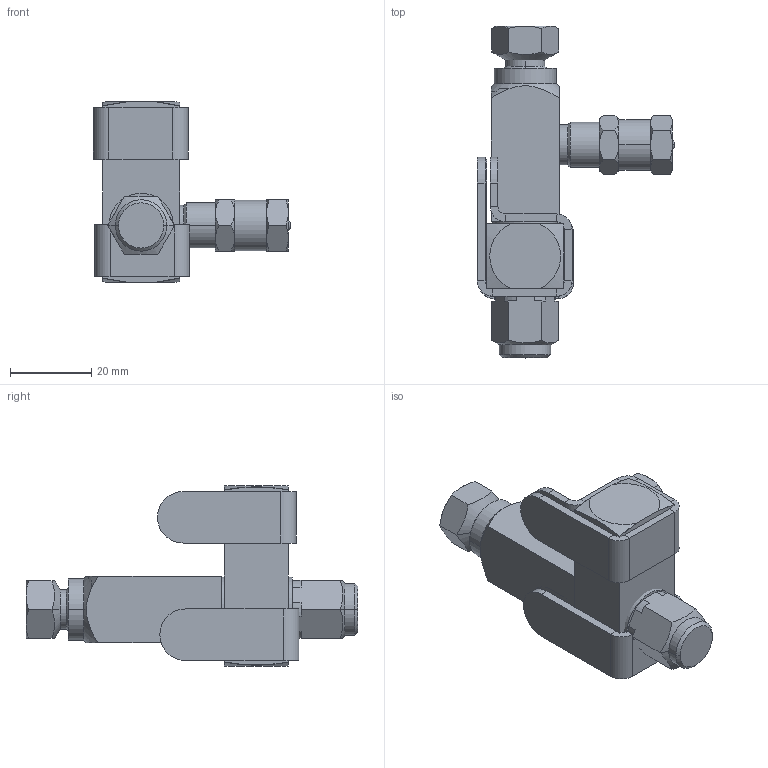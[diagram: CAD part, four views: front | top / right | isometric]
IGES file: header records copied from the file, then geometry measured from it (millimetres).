
Start section:  PTC IGES file: 24f509-en-f.igs
Global section: file name: 24f509-en-f.igs; native system: Creo Parametric by PTC Inc.; preprocessor: 2021072; author: qtmwp1; organization: Unknown; date: 20220214.112504; units: inch
Bounding box: 48.67 x 81.92 x 44.45 mm (x, y, z)
Surface area: 15698.6 mm2 (no closed solid volume)
Topology: 0 solids, 0 shells, 188 faces, 812 edges, 812 vertices
Faces by surface type: bspline 99, revolution 89
